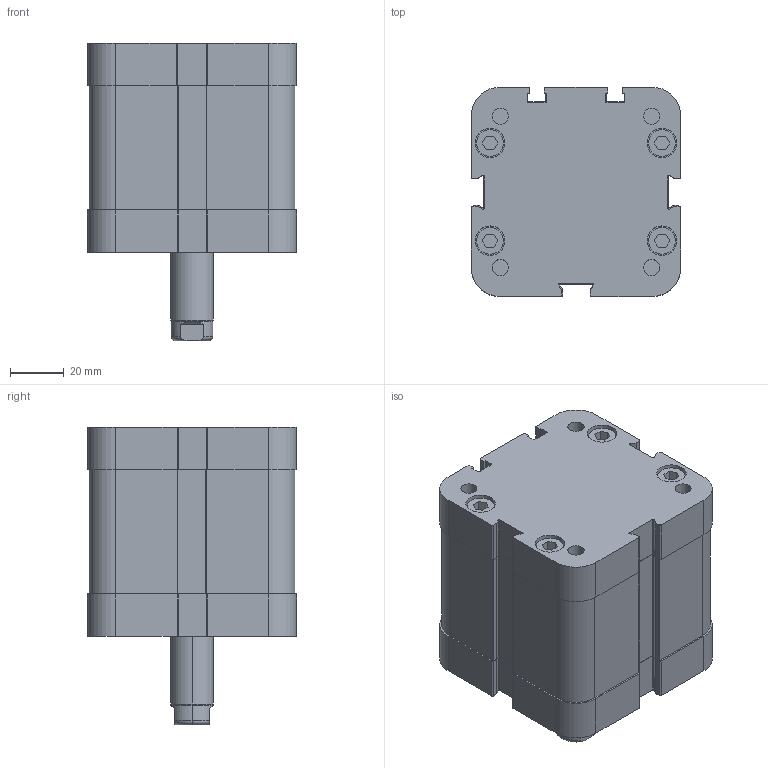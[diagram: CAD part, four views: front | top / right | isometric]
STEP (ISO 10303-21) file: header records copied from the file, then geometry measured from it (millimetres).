
FILE_DESCRIPTION((''),'2;1');
FILE_NAME('P11M30630025.stp','2010-02-25T19:48:06',('B. Petkovic 2010'),('AZ PNEUMATICA S.r.l.'),'Mechanical Desktop 2006','Mechanical Desktop 2006','Via Marco Biagi 6, I-20020 Misinto(MI) Italy, azpneu@tin.it');
FILE_SCHEMA(('CONFIG_CONTROL_DESIGN'));
Length unit declared in the file: millimetre
Products named in the file (2): P11M30630025; COMPACT CILINDRI
Assembly tree (1 placements, depth 2):
  P11M30630025
    COMPACT CILINDRI
Bounding box: 78 x 78 x 111 mm (x, y, z)
Volume: 440697.8 mm3; surface area: 48100 mm2
Topology: 1 solids, 1 shells, 398 faces, 1028 edges, 669 vertices
Faces by surface type: plane 242, cylinder 148, cone 6, torus 2
Entity records: 12314 total; most frequent: CARTESIAN_POINT 2179, DIRECTION 2159, ORIENTED_EDGE 2052, EDGE_CURVE 1026, AXIS2_PLACEMENT_3D 735, VECTOR 689, LINE 689, VERTEX_POINT 669
